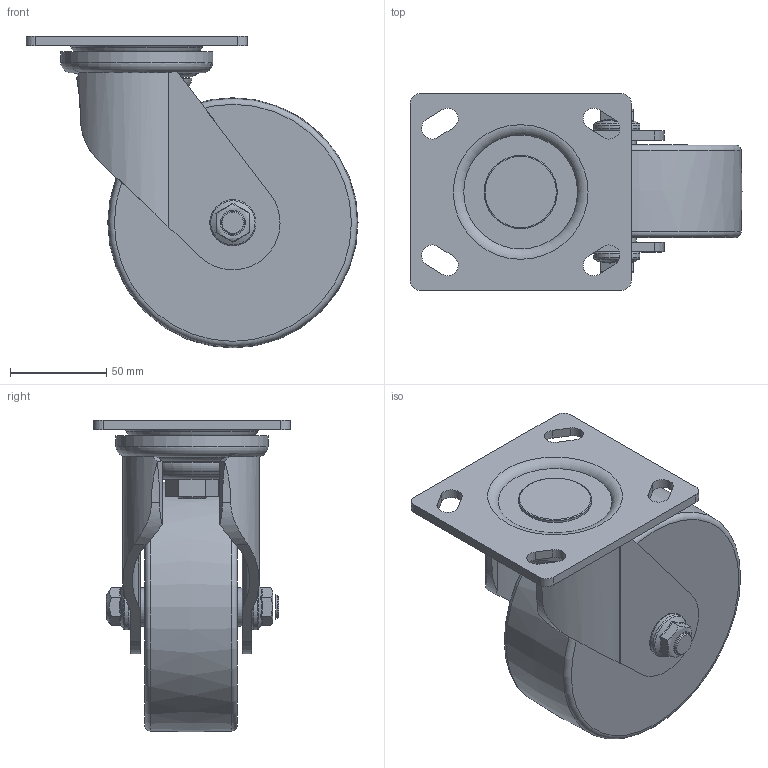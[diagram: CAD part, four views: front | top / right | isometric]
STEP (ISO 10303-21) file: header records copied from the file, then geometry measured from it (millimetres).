
FILE_DESCRIPTION(/* description */ (''),/* implementation_level */ '2;1');
FILE_NAME(/* name */ 'PM-130-ASF-W48.step',/* time_stamp */ '2026-01-27T08:45:07+09:00',/* author */ (''),/* organization */ (''),/* preprocessor_version */ 'ST-DEVELOPER v20.1',/* originating_system */ 'Autodesk Translation Framework v14.24.0.0',/* authorisation */ '');
FILE_SCHEMA (('AUTOMOTIVE_DESIGN { 1 0 10303 214 3 1 1 }'));
Length unit declared in the file: millimetre
Products named in the file (2): PM-130-ASF-MCD; ~SF PLATE
Assembly tree (1 placements, depth 2):
  PM-130-ASF-MCD
    ~SF PLATE
Bounding box: 172.5 x 102 x 162 mm (x, y, z)
Volume: 846242 mm3; surface area: 110382.7 mm2
Topology: 1 solids, 1 shells, 141 faces, 359 edges, 233 vertices
Faces by surface type: plane 65, cylinder 36, torus 18, bspline 15, cone 7
Full cylindrical faces by diameter (mm): 12 x1, 16 x1, 20 x2, 24 x2, 38 x1, 79 x1
Entity records: 5977 total; most frequent: CARTESIAN_POINT 2589, ORIENTED_EDGE 718, DIRECTION 665, EDGE_CURVE 359, AXIS2_PLACEMENT_3D 259, VERTEX_POINT 233, EDGE_LOOP 166, LINE 147
